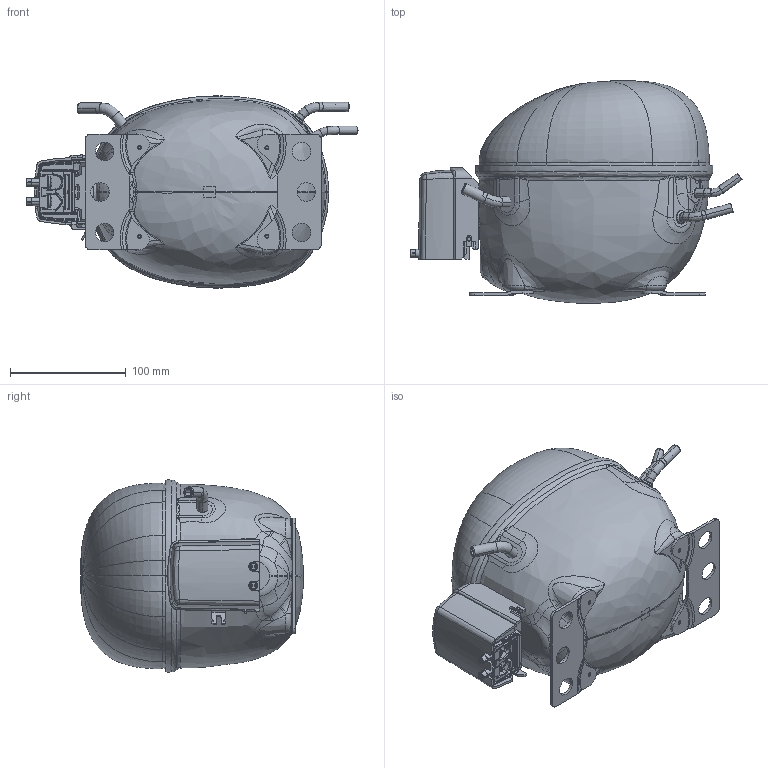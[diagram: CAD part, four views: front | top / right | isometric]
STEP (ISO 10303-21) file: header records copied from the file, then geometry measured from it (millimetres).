
FILE_DESCRIPTION((''),'2;1');
FILE_NAME('103F9004_W_EL_COVER_ASM','2024-07-23T10:05:10',('SKHC0505'),(''),'CREO PARAMETRIC BY PTC INC, 2022162','CREO PARAMETRIC BY PTC INC, 2022162','');
FILE_SCHEMA(('AP242_MANAGED_MODEL_BASED_3D_ENGINEERING_MIM_LF { 1 0 10303 442 1 1 4 }'));
Products named in the file (26): 103F4416; 103F4517; 102B1612; 104B0504; 117-3617_BODY; 117-3617_PINS; 117-3617_GLASS_FUSED; 117-3617_ASM; 103N0480; 102B1857_PROC_CONN_CU_BENT; 103F4609_DC_103F4160_B-4282; 102B1857_BEND_103F4049; 103F4049_BENT_ASM; 103F4963_AF0; 103F4963_AF1; 103F4963_AF2; 103F4963_AF3; 103F4318_COVER_NLE_30_0; 103F9004_ASM; 103N0489; 103N0328; 103N0444; 103N0126_ASM; 103N1010_ASM; 103N2010; 103F9004_W_EL_COVER_ASM
Assembly tree (34 placements, depth 5):
  103F9004_W_EL_COVER_ASM
    103F9004_ASM
      103F4049_BENT_ASM
        103F4416
        103F4517  x2
        102B1612  x4
        104B0504
        117-3617_ASM
          117-3617_BODY
          117-3617_PINS  x3
          117-3617_GLASS_FUSED  x3
        103N0480
        102B1857_PROC_CONN_CU_BENT
        103F4609_DC_103F4160_B-4282
        102B1857_BEND_103F4049
      103F4963_AF0
      103F4963_AF1
      103F4963_AF2
      103F4963_AF3
      103F4318_COVER_NLE_30_0
    103N1010_ASM
      103N0489
      103N0126_ASM
        103N0328
        103N0444  x2
    103N2010
Bounding box: 286.59 x 192.1 x 165.93 mm (x, y, z)
Volume: 459249.2 mm3; surface area: 349711.4 mm2
Topology: 29 solids, 33 shells, 2075 faces, 5086 edges, 3057 vertices
Faces by surface type: cylinder 564, plane 529, bspline 467, torus 241, sphere 115, cone 102, extrusion 41, revolution 16
Entity records: 130024 total; most frequent: CARTESIAN_POINT 68524, ORIENTED_EDGE 9146, DIRECTION 7605, PRESENTATION_STYLE_ASSIGNMENT 5156, STYLED_ITEM 5137, EDGE_CURVE 4579, CURVE_STYLE 4192, AXIS2_PLACEMENT_3D 2922
